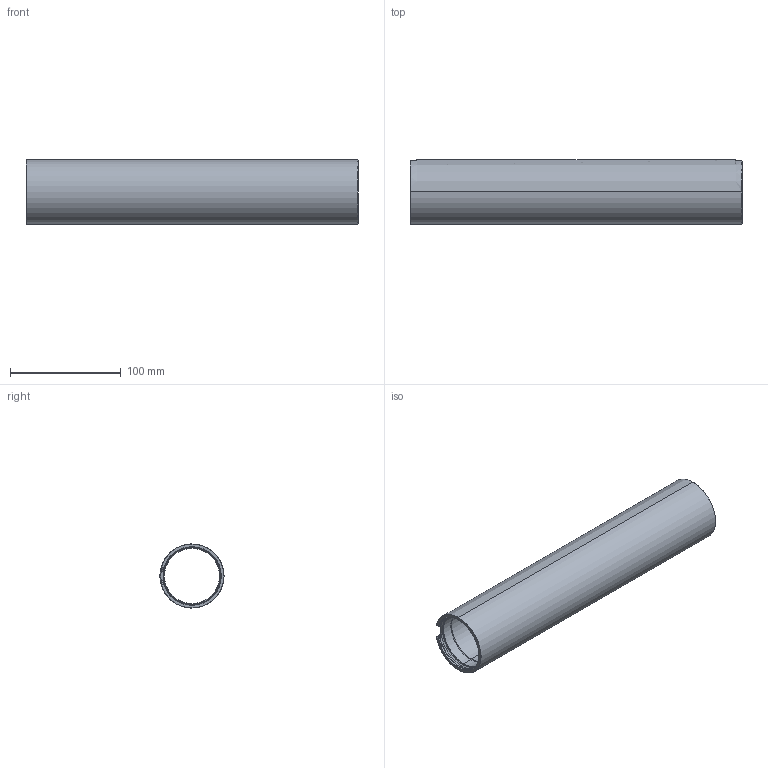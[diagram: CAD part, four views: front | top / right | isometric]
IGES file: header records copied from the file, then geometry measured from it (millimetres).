
Start section: SolidWorks IGES file using analytic representation for surfaces
Global section: file name: C:\Users\Achilles\Desktop\wte2 2020\WTE2-LOCKING-TUBE-R1\WTE2-LOCKING-TUBE-R1.IGS; native system: SolidWorks 2020; preprocessor: SolidWorks 2020; author: Achilles; date: 191112.111304; units: millimetre
Bounding box: 300 x 57.97 x 58 mm (x, y, z)
Surface area: 102926.1 mm2 (no closed solid volume)
Topology: 0 solids, 0 shells, 76 faces, 808 edges, 808 vertices
Faces by surface type: revolution 44, bspline 32
